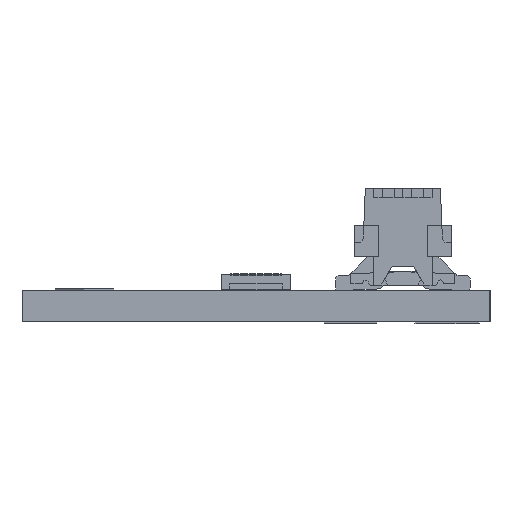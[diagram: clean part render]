
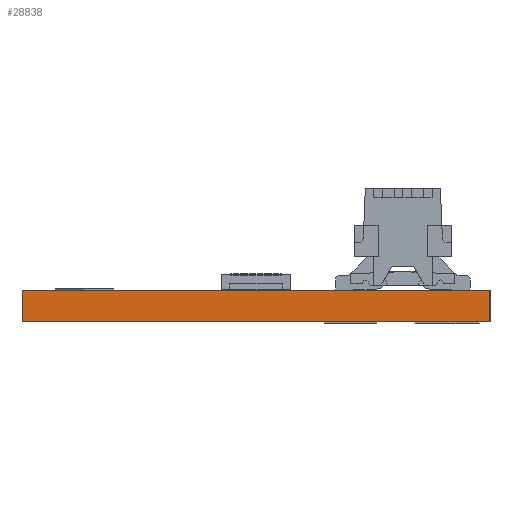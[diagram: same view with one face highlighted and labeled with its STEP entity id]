
A CAD part, left-side view. The second image highlights one B-rep face of the part: STEP entity #28838.
In plain terms, the highlighted planar face has unit normal (-1, 0, 0).
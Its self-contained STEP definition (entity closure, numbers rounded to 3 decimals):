
#391 = EDGE_CURVE ( 'NONE', #15561, #19700, #18741, .T. ) ;
#954 = AXIS2_PLACEMENT_3D ( 'NONE', #22827, #22405, #22397 ) ;
#1326 = CARTESIAN_POINT ( 'NONE',  ( -23.51, 0., 0. ) ) ;
#2179 = CARTESIAN_POINT ( 'NONE',  ( -23.51, 0., 1.6 ) ) ;
#3215 = CARTESIAN_POINT ( 'NONE',  ( -23.51, 24., 1.6 ) ) ;
#3930 = EDGE_LOOP ( 'NONE', ( #15782, #17991, #5973, #20350 ) ) ;
#5723 = DIRECTION ( 'NONE',  ( 0., -1., 0. ) ) ;
#5828 = VERTEX_POINT ( 'NONE', #1326 ) ;
#5973 = ORIENTED_EDGE ( 'NONE', *, *, #20479, .F. ) ;
#7458 = DIRECTION ( 'NONE',  ( 0., 0., -1. ) ) ;
#7478 = CARTESIAN_POINT ( 'NONE',  ( -23.51, 0., 1.6 ) ) ;
#12858 = CARTESIAN_POINT ( 'NONE',  ( -23.51, 24., 0. ) ) ;
#14151 = DIRECTION ( 'NONE',  ( 0., 1., 0. ) ) ;
#15561 = VERTEX_POINT ( 'NONE', #3215 ) ;
#15782 = ORIENTED_EDGE ( 'NONE', *, *, #391, .F. ) ;
#17991 = ORIENTED_EDGE ( 'NONE', *, *, #33622, .F. ) ;
#18095 = LINE ( 'NONE', #7478, #18583 ) ;
#18583 = VECTOR ( 'NONE', #7458, 1000. ) ;
#18741 = LINE ( 'NONE', #28337, #18768 ) ;
#18768 = VECTOR ( 'NONE', #5723, 1000. ) ;
#19700 = VERTEX_POINT ( 'NONE', #2179 ) ;
#20350 = ORIENTED_EDGE ( 'NONE', *, *, #30327, .F. ) ;
#20479 = EDGE_CURVE ( 'NONE', #5828, #29654, #26528, .T. ) ;
#22397 = DIRECTION ( 'NONE',  ( 0., 0., -1. ) ) ;
#22405 = DIRECTION ( 'NONE',  ( -1., 0., 0. ) ) ;
#22827 = CARTESIAN_POINT ( 'NONE',  ( -23.51, 0., 0. ) ) ;
#23122 = PLANE ( 'NONE',  #954 ) ;
#23507 = CARTESIAN_POINT ( 'NONE',  ( -23.51, 24., 0. ) ) ;
#26205 = VECTOR ( 'NONE', #14151, 1000. ) ;
#26528 = LINE ( 'NONE', #12858, #26205 ) ;
#28337 = CARTESIAN_POINT ( 'NONE',  ( -23.51, 24., 1.6 ) ) ;
#28442 = FACE_OUTER_BOUND ( 'NONE', #3930, .T. ) ;
#28838 = ADVANCED_FACE ( 'NONE', ( #28442 ), #23122, .T. ) ;
#28995 = LINE ( 'NONE', #30938, #29063 ) ;
#29063 = VECTOR ( 'NONE', #30966, 1000. ) ;
#29654 = VERTEX_POINT ( 'NONE', #23507 ) ;
#30327 = EDGE_CURVE ( 'NONE', #19700, #5828, #18095, .T. ) ;
#30938 = CARTESIAN_POINT ( 'NONE',  ( -23.51, 24., 1.6 ) ) ;
#30966 = DIRECTION ( 'NONE',  ( 0., 0., 1. ) ) ;
#33622 = EDGE_CURVE ( 'NONE', #29654, #15561, #28995, .T. ) ;
